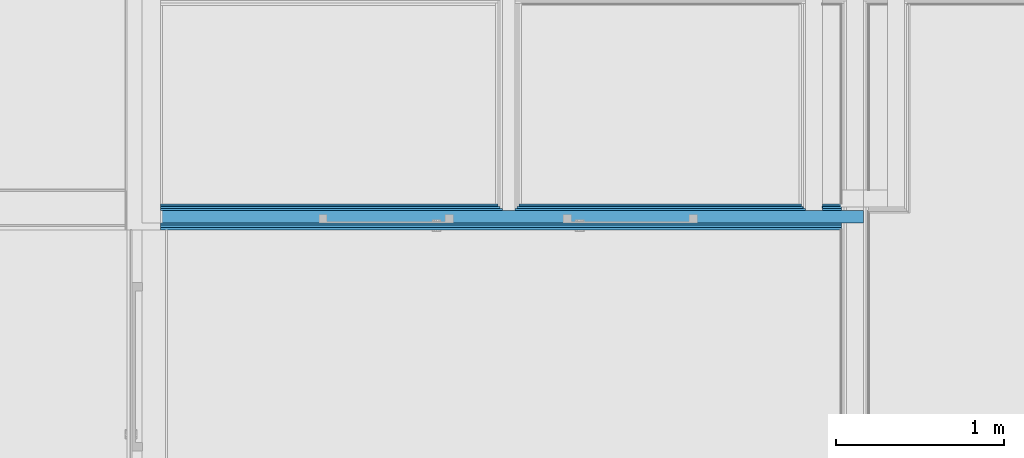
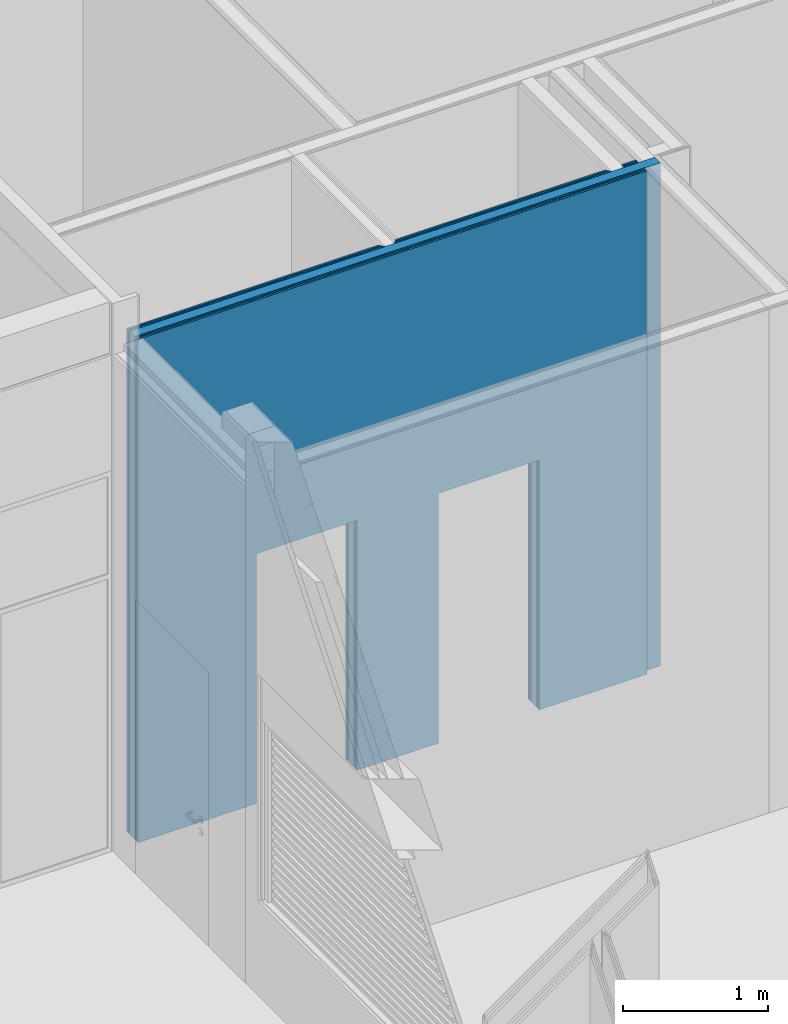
# One storey, part 117 of 260: 7 building element parts, 2 openings, 1 element without a shape of its own.
"""IFC2X3 building model written with IfcOpenShell, lengths in millimetres."""

import ifcopenshell
import ifcopenshell.guid

model = None  # the IFC model being written
_history = None  # IfcOwnerHistory: only IFC2X3 demands one
_inside = {}  # id of a spatial element -> (the spatial element, [elements in it])
_under = {}  # id of a project, library or spatial element -> (it, [spatial elements below it])
_declared = {}  # id of a project -> (the project, [libraries it declares])
_typed = {}  # id of a type object -> (the type object, [elements of that type])
_made_of = {}  # id of a material, layer set ... -> (it, [elements and type objects made of it])


def new_model(schema):
    """Start an empty IFC model of exactly this schema.

    Asked for "IFC4X3", IfcOpenShell would pick the latest addendum, in which some entities
    have other attributes; the version numbers below select the first issue.
    IFC2X3 requires an IfcOwnerHistory on every rooted entity: one is made here for all.
    """
    global model, _history
    if schema == "IFC4X3":
        model = ifcopenshell.file(schema_version=(4, 3, 0, 0))
    else:
        model = ifcopenshell.file(schema=schema)
    _inside.clear()
    _under.clear()
    _declared.clear()
    _typed.clear()
    _made_of.clear()
    _history = None
    if model.schema == "IFC2X3":
        org = make("IfcOrganization", Name="unknown")
        user = make(
            "IfcPersonAndOrganization",
            ThePerson=make("IfcPerson", FamilyName="unknown"),
            TheOrganization=org,
        )
        app = make(
            "IfcApplication",
            ApplicationDeveloper=org,
            Version="unknown",
            ApplicationFullName="unknown",
            ApplicationIdentifier="unknown",
        )
        _history = make(
            "IfcOwnerHistory",
            OwningUser=user,
            OwningApplication=app,
            ChangeAction="ADDED",
            CreationDate=0,
        )
    return model


def make(cls, **values):
    """One entity of the class cls with the attributes given. An attribute that is None is left unset."""
    return model.create_entity(
        cls, **{name: value for name, value in values.items() if value is not None}
    )


def entity(cls, *values):
    """Any entity or typed value of the class cls, its attributes in the order of the schema. None: left unset."""
    e = model.create_entity(cls)
    for i, value in enumerate(values):
        if value is not None:
            e[i] = value
    return e


def rooted(cls, **values):
    """An entity with a GlobalId (a new one), such as an element, a storey or a relation."""
    return make(cls, GlobalId=ifcopenshell.guid.new(), OwnerHistory=_history, **values)


def si_unit(unit_type, name, prefix=None):
    """IfcSIUnit, for example si_unit("LENGTHUNIT", "METRE", prefix="MILLI")."""
    return make("IfcSIUnit", UnitType=unit_type, Prefix=prefix, Name=name)


def converted_unit(unit_type, name, factor, base, dimensions=None, offset=None):
    """IfcConversionBasedUnit, such as the inch: factor (a typed value) times the base unit."""
    return make(
        "IfcConversionBasedUnit"
        if offset is None
        else "IfcConversionBasedUnitWithOffset",
        ConversionOffset=offset,
        Dimensions=None
        if dimensions is None
        else entity("IfcDimensionalExponents", *dimensions),
        UnitType=unit_type,
        Name=name,
        ConversionFactor=make(
            "IfcMeasureWithUnit", ValueComponent=factor, UnitComponent=base
        ),
    )


def derived_unit(unit_type, elements):
    """IfcDerivedUnit: a product of units, each with its exponent."""
    return make(
        "IfcDerivedUnit",
        Elements=[
            make("IfcDerivedUnitElement", Unit=unit, Exponent=power)
            for unit, power in elements
        ],
        UnitType=unit_type,
    )


def money_unit(currency):
    """IfcMonetaryUnit."""
    return make("IfcMonetaryUnit", Currency=currency)


def assignment(units):
    """IfcUnitAssignment: the units of a project."""
    return None if units is None else make("IfcUnitAssignment", Units=units)


def point(xyz):
    """IfcCartesianPoint."""
    return None if xyz is None else make("IfcCartesianPoint", Coordinates=xyz)


def direction(xyz):
    """IfcDirection."""
    return None if xyz is None else make("IfcDirection", DirectionRatios=xyz)


def frame(location, z_axis=None, x_axis=None):
    """IfcAxis2Placement3D, a coordinate frame: its origin and axes. An axis left out is left unset."""
    return make(
        "IfcAxis2Placement3D",
        Location=point(location),
        Axis=direction(z_axis),
        RefDirection=direction(x_axis),
    )


def origin_with_axes():
    """The frame at (0, 0, 0) with the z axis (0, 0, 1) and the x axis (1, 0, 0) written out."""
    return frame((0.0, 0.0, 0.0), z_axis=(0.0, 0.0, 1.0), x_axis=(1.0, 0.0, 0.0))


def place(relative_to, where):
    """IfcLocalPlacement: puts the frame where relative to a parent placement (None: the world)."""
    return make(
        "IfcLocalPlacement", PlacementRelTo=relative_to, RelativePlacement=where
    )


def context(
    kind, dimensions, precision=None, world=None, true_north=None, identifier=None
):
    """IfcGeometricRepresentationContext, for example the 3D "Model" context."""
    return make(
        "IfcGeometricRepresentationContext",
        ContextIdentifier=identifier,
        ContextType=kind,
        CoordinateSpaceDimension=dimensions,
        Precision=precision,
        WorldCoordinateSystem=world,
        TrueNorth=true_north,
    )


def subcontext(parent, identifier, kind, view, scale=None):
    """IfcGeometricRepresentationSubContext, for example "Body" below "Model"."""
    return make(
        "IfcGeometricRepresentationSubContext",
        ContextIdentifier=identifier,
        ContextType=kind,
        ParentContext=parent,
        TargetScale=scale,
        TargetView=view,
    )


def project(units=None, contexts=None):
    """IfcProject with its units and contexts."""
    return rooted(
        "IfcProject",
        Name="project",
        RepresentationContexts=contexts,
        UnitsInContext=assignment(units),
    )


def spatial(cls, under=None, at=None, **own):
    """A site, building, storey or space (cls), placed at a placement, below another one or the project."""
    s = rooted(cls, ObjectPlacement=at, **own)
    if under is not None:
        _under.setdefault(under.id(), (under, []))[1].append(s)
    return s


def faces_of(points, faces, orient=None, outer=None):
    """IfcFace entities. A face is a list of loops; a loop is a list of indices into points, from 0.

    orient and outer hold one flag for each loop. By default every Orientation is true, the
    first loop of a face is its IfcFaceOuterBound and the others are IfcFaceBound.
    """
    made = []
    for i, loops in enumerate(faces):
        bounds = []
        for j, loop in enumerate(loops):
            is_outer = j == 0 if outer is None else outer[i][j]
            bounds.append(
                make(
                    "IfcFaceOuterBound" if is_outer else "IfcFaceBound",
                    Bound=make("IfcPolyLoop", Polygon=[points[k] for k in loop]),
                    Orientation=True if orient is None else orient[i][j],
                )
            )
        made.append(make("IfcFace", Bounds=bounds))
    return made


def faceted_brep(points, faces, orient=None, outer=None, voids=None):
    """IfcFacetedBrep: a solid bounded by flat faces; with voids (closed shells), ...WithVoids."""
    shared = [point(p) for p in points]
    hull = make("IfcClosedShell", CfsFaces=faces_of(shared, faces, orient, outer))
    if voids is None:
        return make("IfcFacetedBrep", Outer=hull)
    return make(
        "IfcFacetedBrepWithVoids",
        Outer=hull,
        Voids=[
            make(cls, CfsFaces=faces_of(shared, fs, o, b)) for cls, fs, o, b in voids
        ],
    )


def shape(context_of_items, identifier, shape_type, items):
    """IfcShapeRepresentation: the items that make up one representation, for example the "Body"."""
    return make(
        "IfcShapeRepresentation",
        ContextOfItems=context_of_items,
        RepresentationIdentifier=identifier,
        RepresentationType=shape_type,
        Items=items,
    )


def material(Name=None, Category=None):
    """IfcMaterial."""
    return make("IfcMaterial", Name=Name, Category=Category)


def made_of(thing, what):
    """Note that an element or type object is made of a material, layer set ...; save() writes the relation."""
    if what is not None:
        _made_of.setdefault(what.id(), (what, []))[1].append(thing)
    return thing


def type_object(cls, material=None, **own):
    """A type object (cls), such as IfcWallType, which elements share."""
    return made_of(rooted(cls, **own), material)


def element(
    cls,
    number,
    at=None,
    inside=None,
    cuts=None,
    type_object=None,
    material=None,
    context=None,
    identifier="Body",
    shape_type=None,
    held_by="IfcProductDefinitionShape",
    body=None,
    shapes=None,
    **own,
):
    """One element of the class cls, such as IfcWall. Its Tag is "e" and its number.

    at: its placement. inside: the storey or other place that contains it. cuts: it is an
    opening in that element (IfcRelVoidsElement). A single representation is given by context,
    identifier, shape_type and body (its items); several are given by shapes. held_by: the class
    of the entity that holds the representations. save() writes the other relations.
    """
    e = rooted(cls, Tag="e%d" % number, ObjectPlacement=at, **own)
    if body is not None:
        shapes = [shape(context, identifier, shape_type, body)]
    if shapes is not None:
        e.Representation = make(held_by, Representations=shapes)
    if inside is not None:
        _inside.setdefault(inside.id(), (inside, []))[1].append(e)
    if cuts is not None:
        rooted(
            "IfcRelVoidsElement", RelatingBuildingElement=cuts, RelatedOpeningElement=e
        )
    if type_object is not None:
        _typed.setdefault(type_object.id(), (type_object, []))[1].append(e)
    return made_of(e, material)


def aggregate(whole, parts):
    """IfcRelAggregates: a whole, such as a stair, and the parts it consists of."""
    return rooted("IfcRelAggregates", RelatingObject=whole, RelatedObjects=parts)


def save(model, path):
    """Write the relations noted so far, then the file.

    IfcRelAggregates (storeys below a building ...), IfcRelContainedInSpatialStructure (elements
    in a storey), IfcRelDefinesByType, IfcRelAssociatesMaterial and IfcRelDeclares: one each for
    every whole, place, type object, material and project.
    """
    for whole, parts in _under.values():
        aggregate(whole, parts)
    for where, things in _inside.values():
        rooted(
            "IfcRelContainedInSpatialStructure",
            RelatedElements=things,
            RelatingStructure=where,
        )
    for kind, things in _typed.values():
        rooted("IfcRelDefinesByType", RelatedObjects=things, RelatingType=kind)
    for what, things in _made_of.values():
        rooted("IfcRelAssociatesMaterial", RelatedObjects=things, RelatingMaterial=what)
    for by, libraries in _declared.values():
        rooted("IfcRelDeclares", RelatingContext=by, RelatedDefinitions=libraries)
    model.write(path)


model = new_model("IFC2X3")

# Units and contexts
model_context = context("Model", 3, precision=0.01, world=origin_with_axes(), true_north=direction((0.0, 1.0)))
body_context = subcontext(model_context, "Body", "Model", "MODEL_VIEW")
ifc_project = project(units=[si_unit("LENGTHUNIT", "METRE", prefix="MILLI"), si_unit("AREAUNIT", "SQUARE_METRE"), si_unit("VOLUMEUNIT", "CUBIC_METRE"), converted_unit("PLANEANGLEUNIT", "DEGREE", entity("IfcPlaneAngleMeasure", 0.0174532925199), si_unit("PLANEANGLEUNIT", "RADIAN"), dimensions=[0, 0, 0, 0, 0, 0, 0]), money_unit("EUR"), converted_unit("TIMEUNIT", "Year", entity("IfcTimeMeasure", 31556926.0), si_unit("TIMEUNIT", "SECOND"), dimensions=[0, 0, 1, 0, 0, 0, 0]), si_unit("MASSUNIT", "GRAM", prefix="KILO"), si_unit("THERMODYNAMICTEMPERATUREUNIT", "DEGREE_CELSIUS"), si_unit("LUMINOUSINTENSITYUNIT", "LUMEN"), si_unit("ENERGYUNIT", "JOULE", prefix="MEGA"), derived_unit("THERMALCONDUCTANCEUNIT", [(si_unit("POWERUNIT", "WATT"), 1), (si_unit("LENGTHUNIT", "METRE"), -1), (si_unit("THERMODYNAMICTEMPERATUREUNIT", "KELVIN"), -1)]), derived_unit("SPECIFICHEATCAPACITYUNIT", [(si_unit("ENERGYUNIT", "JOULE"), 1), (si_unit("MASSUNIT", "GRAM", prefix="KILO"), -1), (si_unit("THERMODYNAMICTEMPERATUREUNIT", "KELVIN"), -1)]), derived_unit("MASSDENSITYUNIT", [(si_unit("MASSUNIT", "GRAM", prefix="KILO"), 1), (si_unit("VOLUMEUNIT", "CUBIC_METRE"), -1)])], contexts=[model_context])

# Site, building, storey
site_placement = place(None, origin_with_axes())
site = spatial("IfcSite", under=ifc_project, at=site_placement, Name="Kolde pst 67a", CompositionType="ELEMENT")
building_placement = place(site_placement, origin_with_axes())
building = spatial("IfcBuilding", under=site, at=building_placement, Name="Riigigümnaasium", CompositionType="ELEMENT")
storey_placement = place(building_placement, origin_with_axes())
storey = spatial("IfcBuildingStorey", under=building, at=storey_placement, Name="1. korrus", CompositionType="ELEMENT", Elevation=0.0)

# Wall, openings, building element parts
wall_type = type_object("IfcWallType", Name="SS-MK-7,5/1_plaaditud 155", PredefinedType="NOTDEFINED")
wall_placement = place(storey_placement, frame((52789.9940974, 52735.0001843, 0.0), z_axis=(0.0, 0.0, 1.0), x_axis=(1.0, 0.0, 0.0)))
wall = element("IfcWall", 1, at=wall_placement, inside=storey, type_object=wall_type, Name="Sisesein")
opening_1_placement = place(wall_placement, frame((2789.99983423, 0.0, 0.0), z_axis=(0.0, 0.0, 1.0), x_axis=(1.0, 0.0, 0.0)))
element("IfcOpeningElement", 2, at=opening_1_placement, cuts=wall, Name="Siseuks", context=body_context, shape_type="Brep", body=[
    faceted_brep([(400.0, -310.0, 2100.0), (400.0, -310.0, 0.0), (400.0, 155.0, 0.0), (400.0, 155.0, 2100.0), (-400.0, -310.0, 2100.0), (-400.0, -310.0, 0.0), (-400.0, 155.0, 0.0), (-400.0, 155.0, 2100.0)], [[[0, 1, 2, 3]], [[0, 4, 5, 1]], [[1, 5, 6, 2]], [[3, 2, 6, 7]], [[4, 0, 3, 7]], [[5, 4, 7, 6]]]),
])
opening_2_placement = place(wall_placement, frame((1339.99983424, 0.0, 0.0), z_axis=(0.0, 0.0, 1.0), x_axis=(1.0, 0.0, 0.0)))
element("IfcOpeningElement", 3, at=opening_2_placement, cuts=wall, Name="Siseuks", context=body_context, shape_type="Brep", body=[
    faceted_brep([(-400.0, 155.0, 2100.0), (-400.0, 155.0, 0.0), (-400.0, -310.0, 0.0), (-400.0, -310.0, 2100.0), (400.0, 155.0, 2100.0), (400.0, 155.0, 0.0), (400.0, -310.0, 0.0), (400.0, -310.0, 2100.0)], [[[0, 1, 2, 3]], [[0, 4, 5, 1]], [[1, 5, 6, 2]], [[3, 2, 6, 7]], [[4, 0, 3, 7]], [[5, 4, 7, 6]]]),
])
ifc_material_1 = material(Name="_VIIMISTLUSKIHT - viimistlus vastavalt SA osale")
building_element_part_1_placement = place(wall_placement, origin_with_axes())
building_element_part_1 = element("IfcBuildingElementPart", 4, at=building_element_part_1_placement, material=ifc_material_1, Name="_VIIMISTLUSKIHT - viimistlus vastavalt SA osale", context=body_context, shape_type="Brep", body=[
    faceted_brep([(3931.44949377, 1.45777789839e-06, 4230.0), (4039.99994432, 1.62906133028e-06, 4230.0), (4045.00001362, 1.62906133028e-06, 4230.00000998), (4045.00001362, 0.0, 0.0), (3931.44949377, 0.0, 0.0), (3931.44949377, -14.9999980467, 4230.0), (4039.99994432, -14.9999978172, 4230.0), (4045.00001362, -14.9999978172, 4230.00000998), (4045.00001362, -15.0, 0.0), (3931.44949377, -15.0, 0.0)], [[[0, 1, 2, 3, 4]], [[1, 0, 5, 6, 7, 2]], [[8, 3, 2, 7]], [[4, 3, 8, 9]], [[5, 0, 4, 9]], [[6, 5, 9, 8, 7]]]),
    faceted_brep([(2389.99983423, 7.89796672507e-07, 2100.0), (2389.99983423, 0.0, 0.0), (2129.99983423, 0.0, 0.0), (2129.99983423, 7.89796672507e-07, 4230.0), (3806.44949377, 1.41142919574e-06, 4230.0), (3806.44949377, 0.0, 0.0), (3189.99983423, 0.0, 0.0), (3189.99983423, 7.89796672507e-07, 2100.0), (2389.99983423, -14.9999981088, 2100.0), (2389.99983423, -15.0, 0.0), (2129.99983423, -15.0, 0.0), (2129.99983423, -14.9999989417, 4230.0), (3806.44949377, -14.9999981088, 4230.0), (3806.44949377, -15.0, 0.0), (3189.99983423, -15.0, 0.0), (3189.99983423, -14.9999981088, 2100.0)], [[[0, 1, 2, 3, 4, 5, 6, 7]], [[1, 0, 8, 9]], [[1, 9, 10, 2]], [[3, 2, 10, 11]], [[4, 3, 11, 12]], [[12, 13, 5, 4]], [[14, 6, 5, 13]], [[7, 6, 14, 15]], [[0, 7, 15, 8]], [[15, 14, 13, 12, 11, 10, 9, 8]]]),
    faceted_brep([(939.999834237, 0.0, 2100.0), (939.999834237, 0.0, 0.0), (0.0, 0.0, 0.0), (0.0, 0.0, 4230.0), (2004.99983423, 7.43455075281e-07, 4230.0), (2004.99983423, 0.0, 0.0), (1739.99983424, 0.0, 0.0), (1739.99983424, 0.0, 2100.0), (939.999834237, -14.9999990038, 2100.0), (939.999834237, -15.0, 0.0), (0.0, -15.0, 0.0), (0.0, -15.0, 4230.0), (2004.99983423, -14.9999990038, 4230.0), (2004.99983423, -15.0, 0.0), (1739.99983424, -15.0, 0.0), (1739.99983424, -14.9999990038, 2100.0)], [[[0, 1, 2, 3, 4, 5, 6, 7]], [[1, 0, 8, 9]], [[1, 9, 10, 2]], [[3, 2, 10, 11]], [[4, 3, 11, 12]], [[12, 13, 5, 4]], [[14, 6, 5, 13]], [[7, 6, 14, 15]], [[0, 7, 15, 8]], [[15, 14, 13, 12, 11, 10, 9, 8]]]),
])
ifc_material_2 = material(Name="_PLAATMATERJAL - kipsplaat veekindel")
building_element_part_2_placement = place(wall_placement, origin_with_axes())
building_element_part_2 = element("IfcBuildingElementPart", 5, at=building_element_part_2_placement, material=ifc_material_2, Name="_PLAATMATERJAL - kipsplaat veekindel", context=body_context, shape_type="Brep", body=[
    faceted_brep([(3931.44949377, -14.9999980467, 4230.0), (4039.99994432, -14.9999978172, 4230.0), (4045.00001362, -14.9999978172, 4230.00000998), (4045.00001362, -15.0, 0.0), (3931.44949377, -15.0, 0.0), (3931.44949377, -27.5, 4230.0), (4039.99994432, -27.5, 4230.0), (4045.00001362, -27.5, 4230.00000998), (4045.00001362, -27.5, 0.0), (3931.44949377, -27.5, 0.0)], [[[0, 1, 2, 3, 4]], [[1, 0, 5, 6, 7, 2]], [[8, 3, 2, 7]], [[4, 3, 8, 9]], [[5, 0, 4, 9]], [[6, 5, 9, 8, 7]]]),
    faceted_brep([(2389.99983423, -14.9999989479, 2100.0), (2389.99983423, -15.0, 0.0), (2117.49983423, -15.0, 0.0), (2117.49983423, -14.9999989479, 4230.0), (3818.94949377, -14.9999981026, 4230.0), (3818.94949377, -15.0, 0.0), (3189.99983423, -15.0, 0.0), (3189.99983423, -14.9999989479, 2100.0), (2389.99983423, -27.5, 2100.0), (2389.99983423, -27.5, 0.0), (2117.49983423, -27.5, 0.0), (2117.49983423, -27.5, 4230.0), (3818.94949377, -27.5, 4230.0), (3818.94949377, -27.5, 0.0), (3189.99983423, -27.5, 0.0), (3189.99983423, -27.5, 2100.0)], [[[0, 1, 2, 3, 4, 5, 6, 7]], [[1, 0, 8, 9]], [[1, 9, 10, 2]], [[3, 2, 10, 11]], [[4, 3, 11, 12]], [[12, 13, 5, 4]], [[14, 6, 5, 13]], [[7, 6, 14, 15]], [[0, 7, 15, 8]], [[15, 14, 13, 12, 11, 10, 9, 8]]]),
    faceted_brep([(939.999834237, -15.0, 2100.0), (939.999834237, -15.0, 0.0), (0.0, -15.0, 0.0), (0.0, -15.0, 4230.0), (2017.49983423, -14.9999989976, 4230.0), (2017.49983423, -15.0, 0.0), (1739.99983424, -15.0, 0.0), (1739.99983424, -15.0, 2100.0), (939.999834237, -27.5, 2100.0), (939.999834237, -27.5, 0.0), (0.0, -27.5, 0.0), (0.0, -27.5, 4230.0), (2017.49983423, -27.5, 4230.0), (2017.49983423, -27.5, 0.0), (1739.99983424, -27.5, 0.0), (1739.99983424, -27.5, 2100.0)], [[[0, 1, 2, 3, 4, 5, 6, 7]], [[1, 0, 8, 9]], [[1, 9, 10, 2]], [[3, 2, 10, 11]], [[4, 3, 11, 12]], [[12, 13, 5, 4]], [[14, 6, 5, 13]], [[7, 6, 14, 15]], [[0, 7, 15, 8]], [[15, 14, 13, 12, 11, 10, 9, 8]]]),
])
building_element_part_3_placement = place(wall_placement, origin_with_axes())
building_element_part_3 = element("IfcBuildingElementPart", 6, at=building_element_part_3_placement, material=ifc_material_2, Name="_PLAATMATERJAL - kipsplaat veekindel", context=body_context, shape_type="Brep", body=[
    faceted_brep([(3931.44949377, -27.5, 4230.0), (4039.99994432, -27.5, 4230.0), (4045.00001362, -27.5, 4230.00000998), (4045.00001362, -27.5, 0.0), (3931.44949377, -27.5, 0.0), (3931.44949377, -40.0000005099, 4230.0), (4039.99994432, -40.0000005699, 4230.0), (4045.00001362, -40.0000005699, 4230.00000998), (4045.00001362, -40.0, 0.0), (3931.44949377, -40.0, 0.0)], [[[0, 1, 2, 3, 4]], [[1, 0, 5, 6, 7, 2]], [[8, 3, 2, 7]], [[4, 3, 8, 9]], [[5, 0, 4, 9]], [[6, 5, 9, 8, 7]]]),
    faceted_brep([(2389.99983423, -27.5, 2100.0), (2389.99983423, -27.5, 0.0), (2104.99983423, -27.5, 0.0), (2104.99983423, -27.5, 4230.0), (3831.44949377, -27.5, 4230.0), (3831.44949377, -27.5, 0.0), (3189.99983423, -27.5, 0.0), (3189.99983423, -27.5, 2100.0), (2389.99983423, -40.000000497, 2100.0), (2389.99983423, -40.0, 0.0), (2104.99983423, -40.0, 0.0), (2104.99983423, -40.000000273, 4230.0), (3831.44949377, -40.000000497, 4230.0), (3831.44949377, -40.0, 0.0), (3189.99983423, -40.0, 0.0), (3189.99983423, -40.000000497, 2100.0)], [[[0, 1, 2, 3, 4, 5, 6, 7]], [[1, 0, 8, 9]], [[1, 9, 10, 2]], [[3, 2, 10, 11]], [[4, 3, 11, 12]], [[12, 13, 5, 4]], [[14, 6, 5, 13]], [[7, 6, 14, 15]], [[0, 7, 15, 8]], [[15, 14, 13, 12, 11, 10, 9, 8]]]),
    faceted_brep([(939.999834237, -27.5, 2100.0), (939.999834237, -27.5, 0.0), (0.0, -27.5, 0.0), (0.0, -27.5, 4230.0), (2029.99983423, -27.5, 4230.0), (2029.99983423, -27.5, 0.0), (1739.99983424, -27.5, 0.0), (1739.99983424, -27.5, 2100.0), (939.999834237, -40.0000002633, 2100.0), (939.999834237, -40.0, 0.0), (0.0, -40.0, 0.0), (0.0, -40.0, 4230.0), (2029.99983423, -40.0000002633, 4230.0), (2029.99983423, -40.0, 0.0), (1739.99983424, -40.0, 0.0), (1739.99983424, -40.0000002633, 2100.0)], [[[0, 1, 2, 3, 4, 5, 6, 7]], [[1, 0, 8, 9]], [[1, 9, 10, 2]], [[3, 2, 10, 11]], [[4, 3, 11, 12]], [[12, 13, 5, 4]], [[14, 6, 5, 13]], [[7, 6, 14, 15]], [[0, 7, 15, 8]], [[15, 14, 13, 12, 11, 10, 9, 8]]]),
])
ifc_material_3 = material(Name="_KARKASS - metallkarkass CW 75/50, mineraalvill karkassi vahel")
building_element_part_4_placement = place(wall_placement, origin_with_axes())
building_element_part_4 = element("IfcBuildingElementPart", 7, at=building_element_part_4_placement, material=ifc_material_3, Name="_KARKASS - metallkarkass CW 75/50, mineraalvill karkassi vahel", context=body_context, shape_type="Brep", body=[
    faceted_brep([(939.999834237, -40.0, 2100.0), (939.999834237, -40.0, 0.0), (0.0, -40.0, 0.0), (0.0, -40.0, 4230.0), (4039.99994432, -40.0000005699, 4230.0), (4175.00001362, -40.0000005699, 4230.00000998), (4175.00001362, -40.0, 0.0), (3189.99983423, -40.0, 0.0), (3189.99983423, -40.0, 2100.0), (2389.99983423, -40.0, 2100.0), (2389.99983423, -40.0, 0.0), (1739.99983424, -40.0, 0.0), (1739.99983424, -40.0, 2100.0), (939.999834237, -115.0, 2100.0), (939.999834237, -115.0, 0.0), (0.0, -115.0, 0.0), (0.0, -115.0, 4230.0), (4175.00001362, -114.999997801, 4230.00000998), (4175.00001362, -115.0, 0.0), (3189.99983423, -115.0, 0.0), (3189.99983423, -115.0, 2100.0), (2389.99983423, -115.0, 2100.0), (2389.99983423, -115.0, 0.0), (1739.99983424, -115.0, 0.0), (1739.99983424, -115.0, 2100.0)], [[[0, 1, 2, 3, 4, 5, 6, 7, 8, 9, 10, 11, 12]], [[1, 0, 13, 14]], [[1, 14, 15, 2]], [[2, 15, 16, 3]], [[5, 4, 3, 16, 17]], [[5, 17, 18, 6]], [[7, 6, 18, 19]], [[7, 19, 20, 8]], [[8, 20, 21, 9]], [[9, 21, 22, 10]], [[23, 11, 10, 22]], [[12, 11, 23, 24]], [[0, 12, 24, 13]], [[24, 23, 22, 21, 20, 19, 18, 17, 16, 15, 14, 13]]]),
])
building_element_part_5_placement = place(wall_placement, origin_with_axes())
building_element_part_5 = element("IfcBuildingElementPart", 8, at=building_element_part_5_placement, material=ifc_material_2, Name="_PLAATMATERJAL - kipsplaat veekindel", context=body_context, shape_type="Brep", body=[
    faceted_brep([(939.999834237, -115.0, 2100.0), (939.999834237, -115.0, 0.0), (0.0, -115.0, 0.0), (0.0, -115.0, 4230.0), (4045.00001362, -114.999997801, 4230.00000998), (4045.00001362, -115.0, 0.0), (3189.99983423, -115.0, 0.0), (3189.99983423, -115.0, 2100.0), (2389.99983423, -115.0, 2100.0), (2389.99983423, -115.0, 0.0), (1739.99983424, -115.0, 0.0), (1739.99983424, -115.0, 2100.0), (939.999834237, -127.5, 2100.0), (939.999834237, -127.5, 0.0), (0.0, -127.5, 0.0), (0.0, -127.5, 4230.0), (4045.00001362, -127.5, 4230.00000998), (4045.00001362, -127.5, 0.0), (3189.99983423, -127.5, 0.0), (3189.99983423, -127.5, 2100.0), (2389.99983423, -127.5, 2100.0), (2389.99983423, -127.5, 0.0), (1739.99983424, -127.5, 0.0), (1739.99983424, -127.5, 2100.0)], [[[0, 1, 2, 3, 4, 5, 6, 7, 8, 9, 10, 11]], [[1, 0, 12, 13]], [[1, 13, 14, 2]], [[2, 14, 15, 3]], [[16, 4, 3, 15]], [[4, 16, 17, 5]], [[6, 5, 17, 18]], [[6, 18, 19, 7]], [[7, 19, 20, 8]], [[8, 20, 21, 9]], [[22, 10, 9, 21]], [[11, 10, 22, 23]], [[0, 11, 23, 12]], [[23, 22, 21, 20, 19, 18, 17, 16, 15, 14, 13, 12]]]),
])
building_element_part_6_placement = place(wall_placement, origin_with_axes())
building_element_part_6 = element("IfcBuildingElementPart", 9, at=building_element_part_6_placement, material=ifc_material_2, Name="_PLAATMATERJAL - kipsplaat veekindel", context=body_context, shape_type="Brep", body=[
    faceted_brep([(939.999834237, -127.5, 2100.0), (939.999834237, -127.5, 0.0), (0.0, -127.5, 0.0), (0.0, -127.5, 4230.0), (4045.00001362, -127.5, 4230.00000998), (4045.00001362, -127.5, 0.0), (3189.99983423, -127.5, 0.0), (3189.99983423, -127.5, 2100.0), (2389.99983423, -127.5, 2100.0), (2389.99983423, -127.5, 0.0), (1739.99983424, -127.5, 0.0), (1739.99983424, -127.5, 2100.0), (939.999834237, -140.000000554, 2100.0), (939.999834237, -140.0, 0.0), (0.0, -140.0, 0.0), (0.0, -140.0, 4230.0), (4039.99994432, -140.000000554, 4230.0), (4045.00001362, -140.000000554, 4230.00000998), (4045.00001362, -140.0, 0.0), (3189.99983423, -140.0, 0.0), (3189.99983423, -140.000000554, 2100.0), (2389.99983423, -140.000000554, 2100.0), (2389.99983423, -140.0, 0.0), (1739.99983424, -140.0, 0.0), (1739.99983424, -140.000000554, 2100.0)], [[[0, 1, 2, 3, 4, 5, 6, 7, 8, 9, 10, 11]], [[1, 0, 12, 13]], [[1, 13, 14, 2]], [[2, 14, 15, 3]], [[4, 3, 15, 16, 17]], [[4, 17, 18, 5]], [[6, 5, 18, 19]], [[6, 19, 20, 7]], [[7, 20, 21, 8]], [[8, 21, 22, 9]], [[23, 10, 9, 22]], [[11, 10, 23, 24]], [[0, 11, 24, 12]], [[24, 23, 22, 21, 20, 19, 18, 17, 16, 15, 14, 13, 12]]]),
])
building_element_part_7_placement = place(wall_placement, origin_with_axes())
building_element_part_7 = element("IfcBuildingElementPart", 10, at=building_element_part_7_placement, material=ifc_material_1, Name="_VIIMISTLUSKIHT - viimistlus vastavalt SA osale", context=body_context, shape_type="Brep", body=[
    faceted_brep([(939.999834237, -140.0, 2100.0), (939.999834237, -140.0, 0.0), (0.0, -140.0, 0.0), (0.0, -140.0, 4230.0), (4039.99994432, -140.000000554, 4230.0), (4045.00001362, -140.000000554, 4230.00000998), (4045.00001362, -140.0, 0.0), (3189.99983423, -140.0, 0.0), (3189.99983423, -140.0, 2100.0), (2389.99983423, -140.0, 2100.0), (2389.99983423, -140.0, 0.0), (1739.99983424, -140.0, 0.0), (1739.99983424, -140.0, 2100.0), (939.999834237, -155.0, 2100.0), (939.999834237, -155.0, 0.0), (0.0, -155.0, 0.0), (0.0, -155.0, 4230.0), (4039.99994432, -155.0, 4230.0), (4045.00001362, -155.0, 4230.00000998), (4045.00001362, -155.0, 0.0), (3189.99983423, -155.0, 0.0), (3189.99983423, -155.0, 2100.0), (2389.99983423, -155.0, 2100.0), (2389.99983423, -155.0, 0.0), (1739.99983424, -155.0, 0.0), (1739.99983424, -155.0, 2100.0)], [[[0, 1, 2, 3, 4, 5, 6, 7, 8, 9, 10, 11, 12]], [[1, 0, 13, 14]], [[1, 14, 15, 2]], [[2, 15, 16, 3]], [[4, 3, 16, 17, 18, 5]], [[5, 18, 19, 6]], [[7, 6, 19, 20]], [[7, 20, 21, 8]], [[8, 21, 22, 9]], [[9, 22, 23, 10]], [[24, 11, 10, 23]], [[12, 11, 24, 25]], [[0, 12, 25, 13]], [[25, 24, 23, 22, 21, 20, 19, 18, 17, 16, 15, 14, 13]]]),
])
aggregate(wall, [building_element_part_1, building_element_part_2, building_element_part_3, building_element_part_4, building_element_part_5, building_element_part_6, building_element_part_7])

save(model, "model.ifc")
